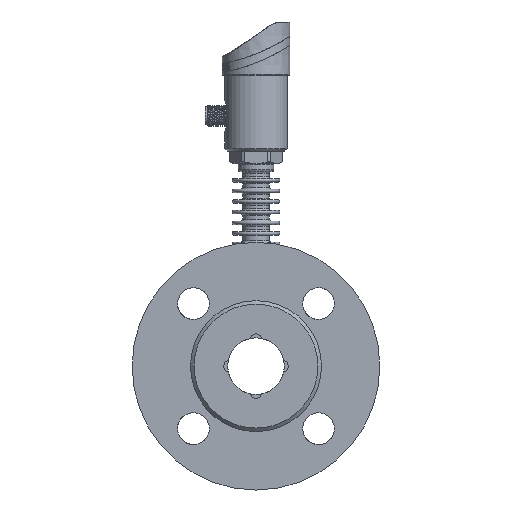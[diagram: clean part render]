
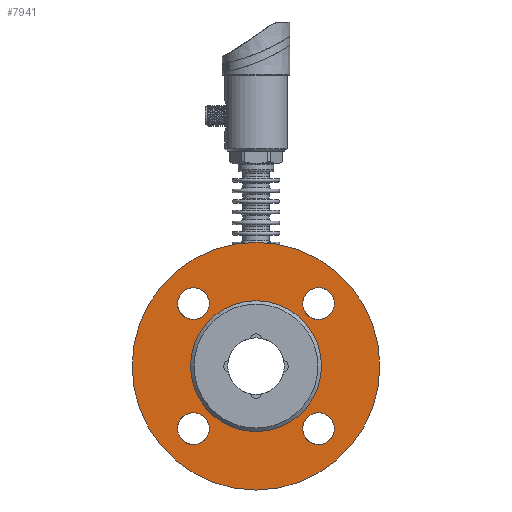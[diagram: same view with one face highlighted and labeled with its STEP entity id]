
A CAD part, front view. The second image highlights one B-rep face of the part: STEP entity #7941.
In plain terms, the highlighted planar face has unit normal (0, -1, 0).
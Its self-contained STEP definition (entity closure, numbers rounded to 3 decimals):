
#7941=ADVANCED_FACE('',(#8820,#8821,#8822,#8823,#8824,#8825),#8368,.T.);
#8368=PLANE('',#23802);
#8820=FACE_BOUND('',#10138,.T.);
#8821=FACE_BOUND('',#10139,.T.);
#8822=FACE_BOUND('',#10140,.T.);
#8823=FACE_BOUND('',#10141,.T.);
#8824=FACE_BOUND('',#10142,.T.);
#8825=FACE_BOUND('',#10143,.T.);
#10138=EDGE_LOOP('',(#15775));
#10139=EDGE_LOOP('',(#15776));
#10140=EDGE_LOOP('',(#15777));
#10141=EDGE_LOOP('',(#15778));
#10142=EDGE_LOOP('',(#15779));
#10143=EDGE_LOOP('',(#15780));
#10767=CIRCLE('',#23630,9.);
#10769=CIRCLE('',#23633,9.);
#10771=CIRCLE('',#23636,9.);
#10793=CIRCLE('',#23667,70.);
#10795=CIRCLE('',#23670,9.);
#10871=CIRCLE('',#23801,37.);
#15775=ORIENTED_EDGE('',*,*,#19953,.T.);
#15776=ORIENTED_EDGE('',*,*,#19810,.F.);
#15777=ORIENTED_EDGE('',*,*,#19844,.T.);
#15778=ORIENTED_EDGE('',*,*,#19842,.F.);
#15779=ORIENTED_EDGE('',*,*,#19812,.T.);
#15780=ORIENTED_EDGE('',*,*,#19808,.F.);
#17387=VERTEX_POINT('',#44367);
#17389=VERTEX_POINT('',#44372);
#17391=VERTEX_POINT('',#44377);
#17413=VERTEX_POINT('',#44438);
#17415=VERTEX_POINT('',#44443);
#17484=VERTEX_POINT('',#45722);
#19808=EDGE_CURVE('',#17387,#17387,#10767,.T.);
#19810=EDGE_CURVE('',#17389,#17389,#10769,.T.);
#19812=EDGE_CURVE('',#17391,#17391,#10771,.T.);
#19842=EDGE_CURVE('',#17413,#17413,#10793,.T.);
#19844=EDGE_CURVE('',#17415,#17415,#10795,.T.);
#19953=EDGE_CURVE('',#17484,#17484,#10871,.T.);
#23630=AXIS2_PLACEMENT_3D('',#44366,#27869,#27870);
#23633=AXIS2_PLACEMENT_3D('',#44371,#27875,#27876);
#23636=AXIS2_PLACEMENT_3D('',#44376,#27881,#27882);
#23667=AXIS2_PLACEMENT_3D('',#44437,#27951,#27952);
#23670=AXIS2_PLACEMENT_3D('',#44442,#27957,#27958);
#23801=AXIS2_PLACEMENT_3D('',#45721,#28239,#28240);
#23802=AXIS2_PLACEMENT_3D('',#45723,#28241,#28242);
#27869=DIRECTION('',(0.,-1.,0.));
#27870=DIRECTION('',(1.,0.,0.));
#27875=DIRECTION('',(0.,-1.,0.));
#27876=DIRECTION('',(1.,0.,0.));
#27881=DIRECTION('',(0.,1.,0.));
#27882=DIRECTION('',(1.,0.,0.));
#27951=DIRECTION('',(0.,1.,0.));
#27952=DIRECTION('',(1.,0.,0.));
#27957=DIRECTION('',(0.,1.,0.));
#27958=DIRECTION('',(1.,0.,0.));
#28239=DIRECTION('',(0.,1.,0.));
#28240=DIRECTION('',(1.,0.,0.));
#28241=DIRECTION('',(0.,-1.,0.));
#28242=DIRECTION('',(-1.,0.,0.));
#44366=CARTESIAN_POINT('',(60.871,-6.6,-156.58));
#44367=CARTESIAN_POINT('',(69.871,-6.6,-156.58));
#44371=CARTESIAN_POINT('',(-9.84,-6.6,-156.58));
#44372=CARTESIAN_POINT('',(-0.84,-6.6,-156.58));
#44376=CARTESIAN_POINT('',(-9.84,-6.6,-85.869));
#44377=CARTESIAN_POINT('',(-0.84,-6.6,-85.869));
#44437=CARTESIAN_POINT('',(25.516,-6.6,-121.224));
#44438=CARTESIAN_POINT('',(95.516,-6.6,-121.224));
#44442=CARTESIAN_POINT('',(60.871,-6.6,-85.869));
#44443=CARTESIAN_POINT('',(69.871,-6.6,-85.869));
#45721=CARTESIAN_POINT('',(25.516,-6.6,-121.224));
#45722=CARTESIAN_POINT('',(62.516,-6.6,-121.224));
#45723=CARTESIAN_POINT('',(25.516,-6.6,-121.224));
